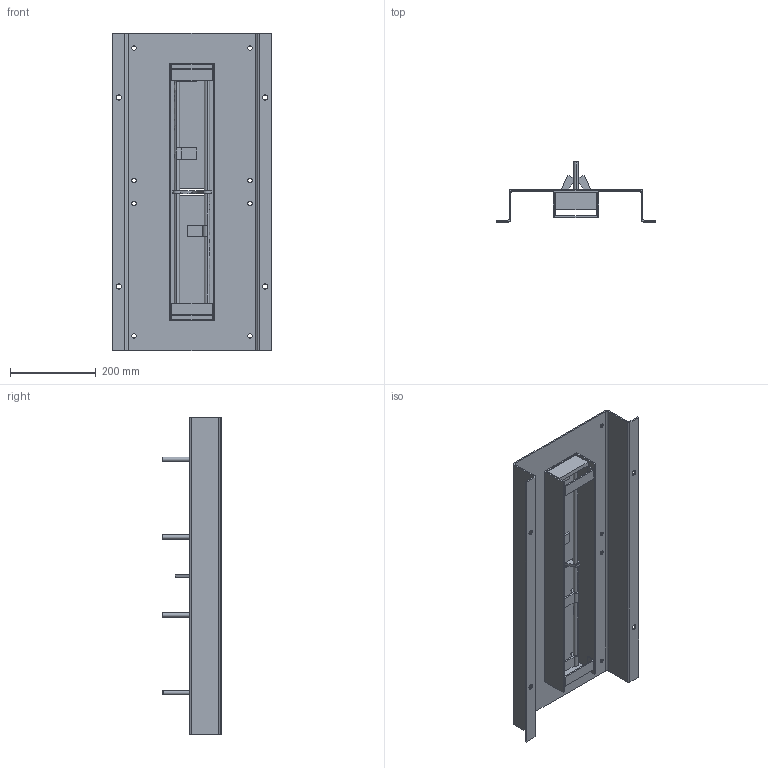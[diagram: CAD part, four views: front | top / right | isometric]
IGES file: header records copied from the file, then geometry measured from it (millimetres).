
Start section:  PTC IGES file: prt0001.igs
Global section: file name: prt0001.igs; native system: Creo Elements/Pro by Parametric Technology Corporation; preprocessor: 2013240; author: khjungb; organization: Unknown; date: 20140312.163020; units: millimetre
Bounding box: 370 x 138.6 x 740 mm (x, y, z)
Surface area: 1003297.5 mm2 (no closed solid volume)
Topology: 0 solids, 0 shells, 278 faces, 1412 edges, 1412 vertices
Faces by surface type: revolution 144, bspline 134
